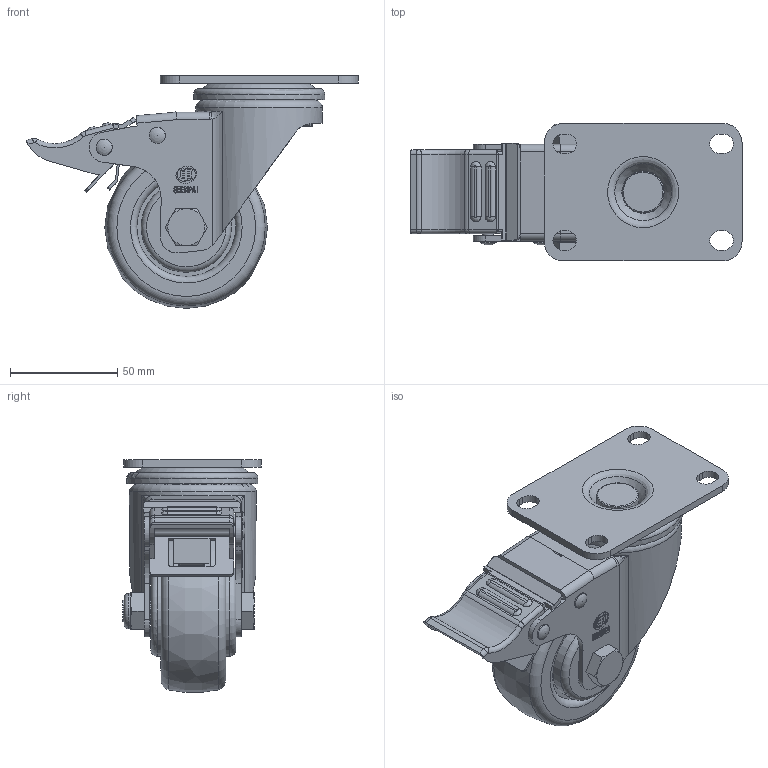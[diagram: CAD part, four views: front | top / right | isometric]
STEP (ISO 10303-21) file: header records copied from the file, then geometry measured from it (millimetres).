
FILE_DESCRIPTION(/* description */ (''),/* implementation_level */ '2;1');
FILE_NAME(/* name */ '20AC4_3_F.stp',/* time_stamp */ '2022-10-06T15:03:21+08:00',/* author */ (''),/* organization */ (''),/* preprocessor_version */ 'ST-DEVELOPER v14',/* originating_system */ 'SIEMENS PLM Software NX 8.0',/* authorisation */ '');
FILE_SCHEMA (('AUTOMOTIVE_DESIGN { 1 0 10303 214 3 1 1 1 }'));
Length unit declared in the file: millimetre
Products named in the file (1): 20AC4_3_F
Bounding box: 154.47 x 64.27 x 108.35 mm (x, y, z)
Volume: 207528.9 mm3; surface area: 101352.2 mm2
Topology: 1 solids, 1 shells, 949 faces, 2892 edges, 1902 vertices
Faces by surface type: plane 402, cylinder 275, torus 102, sphere 78, cone 74, bspline 18
Full cylindrical faces by diameter (mm): 4 x2, 5 x2, 5.2 x7, 7.5 x2, 10 x2, 10.3 x2, 11.2 x2, 12 x1, 12.2 x1, 12.496 x1, 13.2 x4, 16 x1, 16.5 x1, 17 x1, 20.8 x4, 23.2 x2, 24 x1, 30.122 x1, 33 x2, 41 x2, 42 x2, 45.996 x1, 46 x2, 54 x1, 56 x1, 59 x1, 61 x1
Entity records: 37972 total; most frequent: CARTESIAN_POINT 14576, ORIENTED_EDGE 5108, DIRECTION 4470, EDGE_CURVE 2554, AXIS2_PLACEMENT_3D 1757, VERTEX_POINT 1741, EDGE_LOOP 1179, LINE 956
